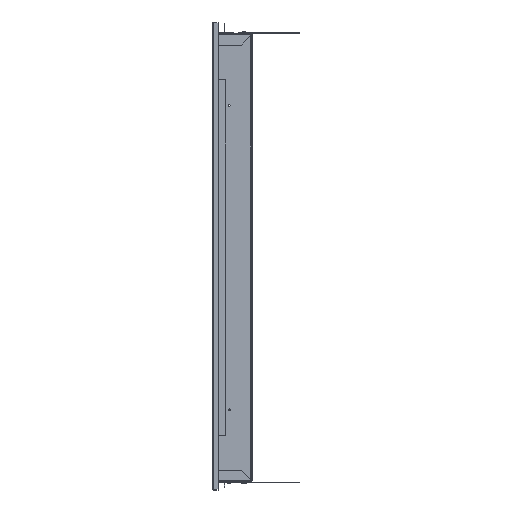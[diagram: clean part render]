
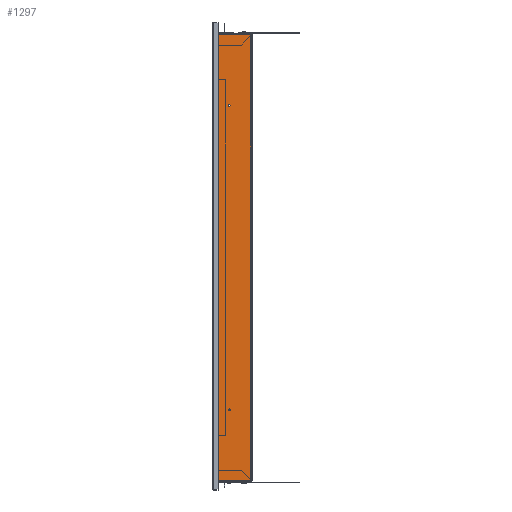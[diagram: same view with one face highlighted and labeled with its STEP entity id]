
A CAD part, left-side view. The second image highlights one B-rep face of the part: STEP entity #1297.
In plain terms, the highlighted planar face has unit normal (-1, 0, 0).
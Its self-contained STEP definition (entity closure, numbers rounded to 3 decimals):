
#1297=ADVANCED_FACE('',(#3044,#3046,#3048),#3050,.F.);
#3044=FACE_BOUND('',#3045,.T.);
#3045=EDGE_LOOP('',(#7776,#7777,#7778,#7779));
#3046=FACE_BOUND('',#3047,.T.);
#3047=EDGE_LOOP('',(#7780));
#3048=FACE_BOUND('',#3049,.T.);
#3049=EDGE_LOOP('',(#7781));
#3050=PLANE('',#3051);
#3051=AXIS2_PLACEMENT_3D('',#3052,#3053,#3054);
#3052=CARTESIAN_POINT('',(-285.9,-284.648,0.));
#3053=DIRECTION('',(1.,0.,0.));
#3054=DIRECTION('',(0.,-1.,0.));
#7776=ORIENTED_EDGE('',*,*,#9824,.T.);
#7777=ORIENTED_EDGE('',*,*,#9860,.T.);
#7778=ORIENTED_EDGE('',*,*,#9861,.F.);
#7779=ORIENTED_EDGE('',*,*,#9862,.T.);
#7780=ORIENTED_EDGE('',*,*,#9863,.T.);
#7781=ORIENTED_EDGE('',*,*,#9864,.T.);
#9824=EDGE_CURVE('',#11192,#11193,#11194,.T.);
#9860=EDGE_CURVE('',#11193,#11248,#11249,.T.);
#9861=EDGE_CURVE('',#11250,#11248,#11251,.T.);
#9862=EDGE_CURVE('',#11250,#11192,#11252,.T.);
#9863=EDGE_CURVE('',#11253,#11253,#11254,.T.);
#9864=EDGE_CURVE('',#11255,#11255,#11256,.T.);
#11192=VERTEX_POINT('',#13764);
#11193=VERTEX_POINT('',#13765);
#11194=LINE('',#13766,#13767);
#11248=VERTEX_POINT('',#14032);
#11249=LINE('',#14033,#14034);
#11250=VERTEX_POINT('',#14036);
#11251=LINE('',#14037,#14038);
#11252=LINE('',#14040,#14041);
#11253=VERTEX_POINT('',#14043);
#11254=CIRCLE('',#14044,1.25);
#11255=VERTEX_POINT('',#14048);
#11256=CIRCLE('',#14049,1.25);
#13764=CARTESIAN_POINT('',(-285.9,1.6,-283.329));
#13765=CARTESIAN_POINT('',(-285.9,1.6,283.329));
#13766=CARTESIAN_POINT('',(-285.9,1.6,-283.329));
#13767=VECTOR('',#13768,1.);
#13768=DIRECTION('',(0.,0.,1.));
#14032=CARTESIAN_POINT('',(-285.9,49.4,283.329));
#14033=CARTESIAN_POINT('',(-285.9,1.6,283.329));
#14034=VECTOR('',#14035,1.);
#14035=DIRECTION('',(0.,1.,0.));
#14036=CARTESIAN_POINT('',(-285.9,49.4,-283.329));
#14037=CARTESIAN_POINT('',(-285.9,49.4,-283.329));
#14038=VECTOR('',#14039,1.);
#14039=DIRECTION('',(0.,0.,1.));
#14040=CARTESIAN_POINT('',(-285.9,49.4,-283.329));
#14041=VECTOR('',#14042,1.);
#14042=DIRECTION('',(0.,-1.,0.));
#14043=CARTESIAN_POINT('',(-285.9,29.,-191.25));
#14044=AXIS2_PLACEMENT_3D('',#14045,#14046,#14047);
#14045=CARTESIAN_POINT('',(-285.9,29.,-192.5));
#14046=DIRECTION('',(1.,0.,0.));
#14047=DIRECTION('',(-0.,0.,1.));
#14048=CARTESIAN_POINT('',(-285.9,29.,193.75));
#14049=AXIS2_PLACEMENT_3D('',#14050,#14051,#14052);
#14050=CARTESIAN_POINT('',(-285.9,29.,192.5));
#14051=DIRECTION('',(1.,0.,0.));
#14052=DIRECTION('',(-0.,0.,1.));
